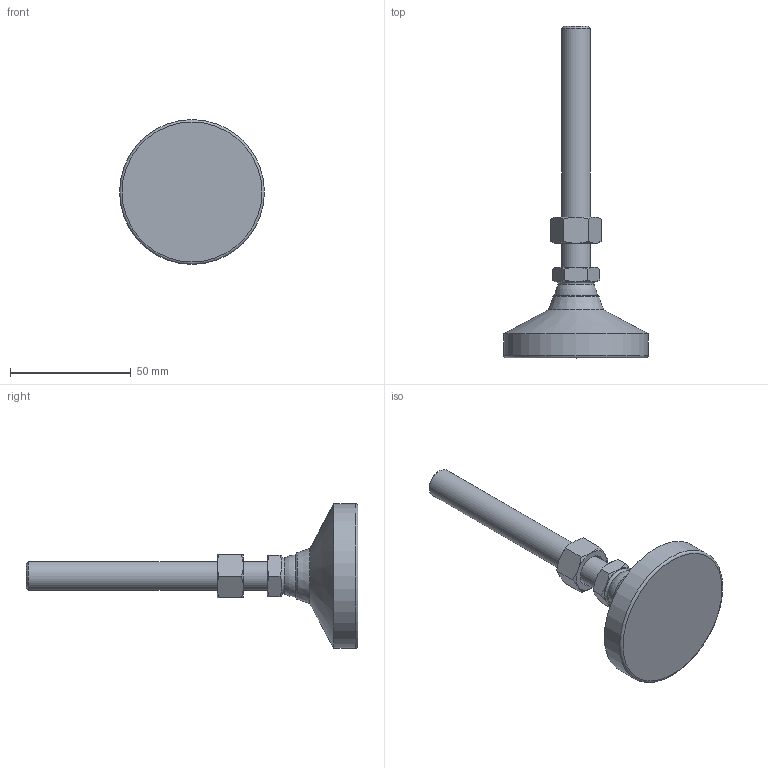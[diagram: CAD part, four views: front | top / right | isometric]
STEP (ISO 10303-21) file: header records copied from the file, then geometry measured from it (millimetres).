
FILE_DESCRIPTION( ( 'STEP AP214' ), ' ' );
FILE_NAME( 'O:/ganter_2015/teil_2/2_5/gn343_2/gn343_2_kre/Levelling foot with threaded stud GN 343.2-60-M12-100-KRE-(0).stp', '2015-10-26T09:20:07', ( '' ), ( '' ), ' ', 'PARTsolutions', ' ' );
FILE_SCHEMA( ( 'AUTOMOTIVE_DESIGN { 1 0 10303 214 1 1 1 1 }' ) );
Length unit declared in the file: millimetre
Products named in the file (4): Levelling foot with threaded stud GN 343.2-60-M12-100-KRE-(0); _Levelling foot with threaded stud GN 343.2-60-M12-100-KRE-(0)_foot; _Levelling foot with threaded stud GN 343.2-60-M12-100-KRE-(0)_screw; _Levelling foot with threaded stud GN 343.2-60-M12-100-KRE-(0)_nut
Assembly tree (3 placements, depth 2):
  Levelling foot with threaded stud GN 343.2-60-M12-100-KRE-(0)
    _Levelling foot with threaded stud GN 343.2-60-M12-100-KRE-(0)_foot
    _Levelling foot with threaded stud GN 343.2-60-M12-100-KRE-(0)_screw
    _Levelling foot with threaded stud GN 343.2-60-M12-100-KRE-(0)_nut
Bounding box: 60 x 137.5 x 60 mm (x, y, z)
Volume: 60608.5 mm3; surface area: 14812.8 mm2
Topology: 3 solids, 3 shells, 56 faces, 117 edges, 68 vertices
Faces by surface type: cone 29, plane 19, torus 3, cylinder 3, sphere 2
Full cylindrical faces by diameter (mm): 10.106 x1, 12 x1, 60 x1
Entity records: 2066 total; most frequent: CARTESIAN_POINT 498, DIRECTION 212, ORIENTED_EDGE 200, AXIS2_PLACEMENT_3D 100, EDGE_CURVE 100, EDGE_LOOP 72, VERTEX_POINT 66, FACE_OUTER_BOUND 62
